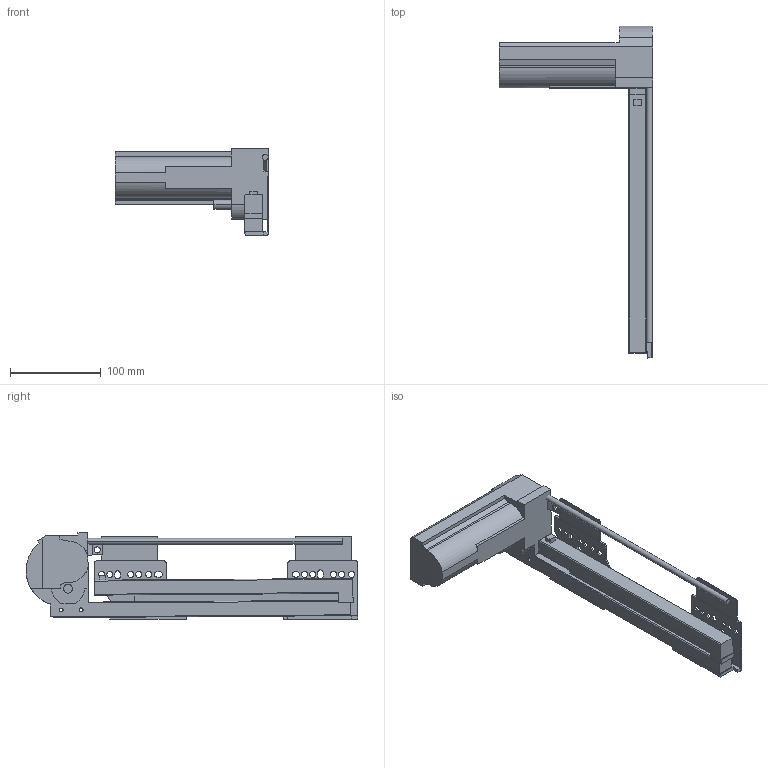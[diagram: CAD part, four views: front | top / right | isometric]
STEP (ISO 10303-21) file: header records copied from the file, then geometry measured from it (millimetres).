
FILE_DESCRIPTION (( 'STEP AP214' ), '1' );
FILE_NAME ('_IMOS_NOVA-Pro_Sensotronic_KS_P904_RE_NL-300_EB29mm.step', '2010-07-23T08:19:56', ( 'grass' ), ( '' ), 'SwSTEP 2.0', 'SolidWorks 2009', '' );
FILE_SCHEMA (( 'AUTOMOTIVE_DESIGN' ));
Length unit declared in the file: millimetre
Products named in the file (1): _IMOS_NOVA-Pro_Sensotronic_KS_P904_RE_NL-300_EB29mm
Bounding box: 169.95 x 366.62 x 95.42 mm (x, y, z)
Volume: 735764 mm3; surface area: 129542.9 mm2
Topology: 3 solids, 3 shells, 187 faces, 539 edges, 358 vertices
Faces by surface type: plane 114, cylinder 73
Entity records: 6288 total; most frequent: CARTESIAN_POINT 1097, ORIENTED_EDGE 1078, DIRECTION 1062, EDGE_CURVE 539, VECTOR 384, LINE 384, VERTEX_POINT 358, AXIS2_PLACEMENT_3D 339
